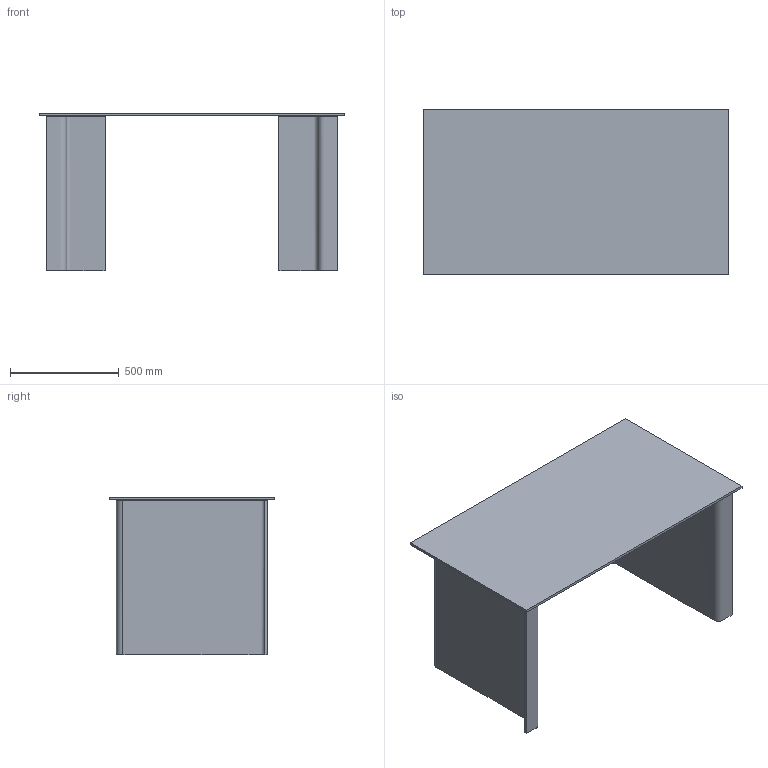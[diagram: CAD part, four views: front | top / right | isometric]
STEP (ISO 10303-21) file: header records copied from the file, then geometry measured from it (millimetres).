
FILE_DESCRIPTION(/* description */ (''),/* implementation_level */ '2;1');
FILE_NAME(/* name */ 'S1324 - Luminare Small Office 140x76',/* time_stamp */ '2010-12-10T10:34:02+01:00',/* author */ (''),/* organization */ (''),/* preprocessor_version */ 'ST-DEVELOPER v10',/* originating_system */ '',/* authorisation */ '');
FILE_SCHEMA (('CONFIG_CONTROL_DESIGN'));
Length unit declared in the file: centimetre
Products named in the file (1): 1
Bounding box: 1400 x 760 x 726 mm (x, y, z)
Volume: 12773709 mm3; surface area: 4866734.3 mm2
Topology: 9 solids, 11 shells, 48 faces, 90 edges, 60 vertices
Faces by surface type: plane 26, bspline 22
Entity records: 1508 total; most frequent: CARTESIAN_POINT 813, ORIENTED_EDGE 160, EDGE_CURVE 90, VERTEX_POINT 60, ADVANCED_FACE 48, FACE_OUTER_BOUND 48, EDGE_LOOP 48, B_SPLINE_CURVE_WITH_KNOTS 46
